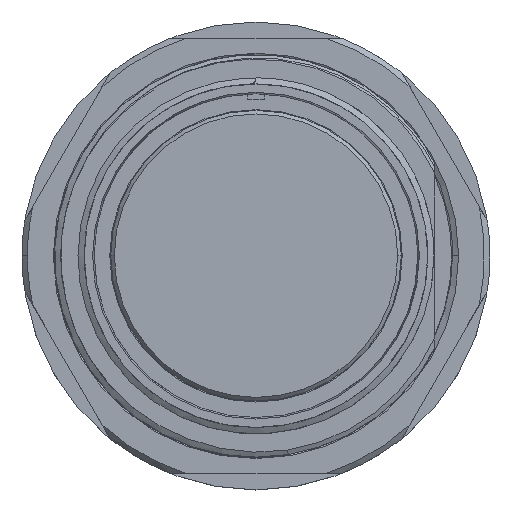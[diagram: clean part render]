
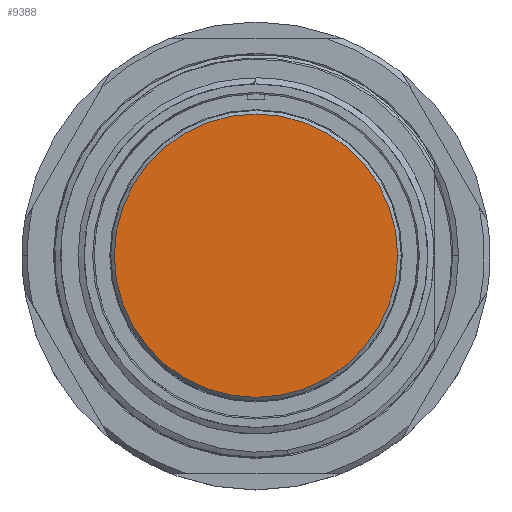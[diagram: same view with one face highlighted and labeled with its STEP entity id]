
A CAD part, top view. The second image highlights one B-rep face of the part: STEP entity #9388.
In plain terms, the highlighted planar face has unit normal (0, 0, 1).
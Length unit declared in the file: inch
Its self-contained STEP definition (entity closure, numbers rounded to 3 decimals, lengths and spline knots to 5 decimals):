
#118 = DIRECTION ( 'NONE',  ( 1., 0., 0. ) ) ;
#1551 = DIRECTION ( 'NONE',  ( 0., 0., 1. ) ) ;
#1858 = ORIENTED_EDGE ( 'NONE', *, *, #6381, .T. ) ;
#2553 = DIRECTION ( 'NONE',  ( 1., 0., 0. ) ) ;
#2800 = ORIENTED_EDGE ( 'NONE', *, *, #9390, .T. ) ;
#4695 = CARTESIAN_POINT ( 'NONE',  ( 0., 0., -0.018 ) ) ;
#5107 = CARTESIAN_POINT ( 'NONE',  ( 0., 0., -0.018 ) ) ;
#5175 = DIRECTION ( 'NONE',  ( 0., 0., 1. ) ) ;
#5205 = AXIS2_PLACEMENT_3D ( 'NONE', #5107, #5175, #118 ) ;
#5329 = CIRCLE ( 'NONE', #12709, 0.792 ) ;
#6381 = EDGE_CURVE ( 'NONE', #7242, #7574, #13009, .T. ) ;
#7242 = VERTEX_POINT ( 'NONE', #11016 ) ;
#7574 = VERTEX_POINT ( 'NONE', #12271 ) ;
#7633 = DIRECTION ( 'NONE',  ( 0., 0., 1. ) ) ;
#8681 = EDGE_LOOP ( 'NONE', ( #1858, #2800 ) ) ;
#9388 = ADVANCED_FACE ( 'NONE', ( #11646 ), #9674, .T. ) ;
#9390 = EDGE_CURVE ( 'NONE', #7574, #7242, #5329, .T. ) ;
#9542 = CARTESIAN_POINT ( 'NONE',  ( 0., 0., -0.018 ) ) ;
#9674 = PLANE ( 'NONE',  #11010 ) ;
#11010 = AXIS2_PLACEMENT_3D ( 'NONE', #4695, #1551, #2553 ) ;
#11016 = CARTESIAN_POINT ( 'NONE',  ( -0.792, 0., -0.018 ) ) ;
#11583 = DIRECTION ( 'NONE',  ( 1., 0., 0. ) ) ;
#11646 = FACE_OUTER_BOUND ( 'NONE', #8681, .T. ) ;
#12271 = CARTESIAN_POINT ( 'NONE',  ( 0.792, 0., -0.018 ) ) ;
#12709 = AXIS2_PLACEMENT_3D ( 'NONE', #9542, #7633, #11583 ) ;
#13009 = CIRCLE ( 'NONE', #5205, 0.792 ) ;
